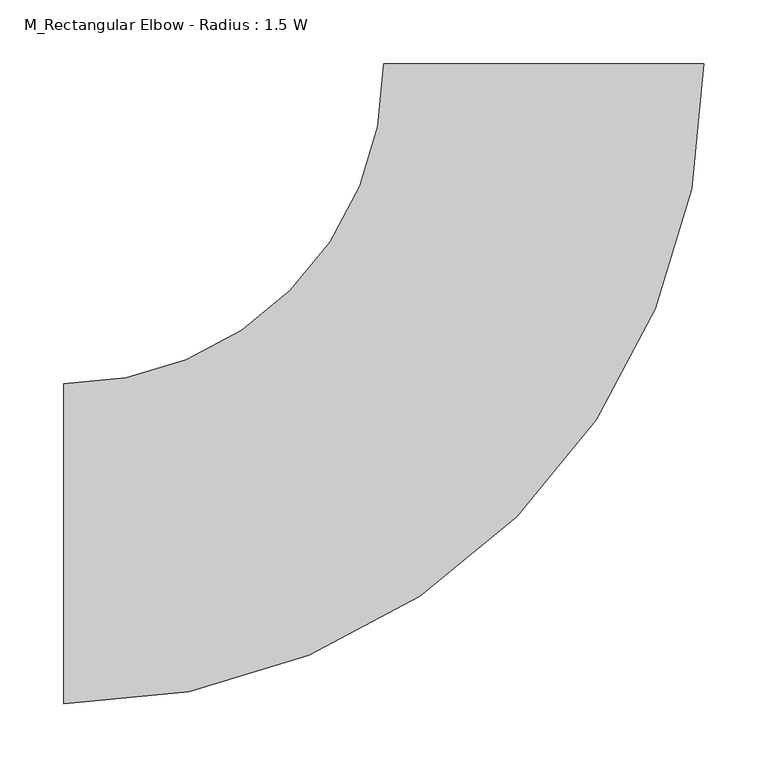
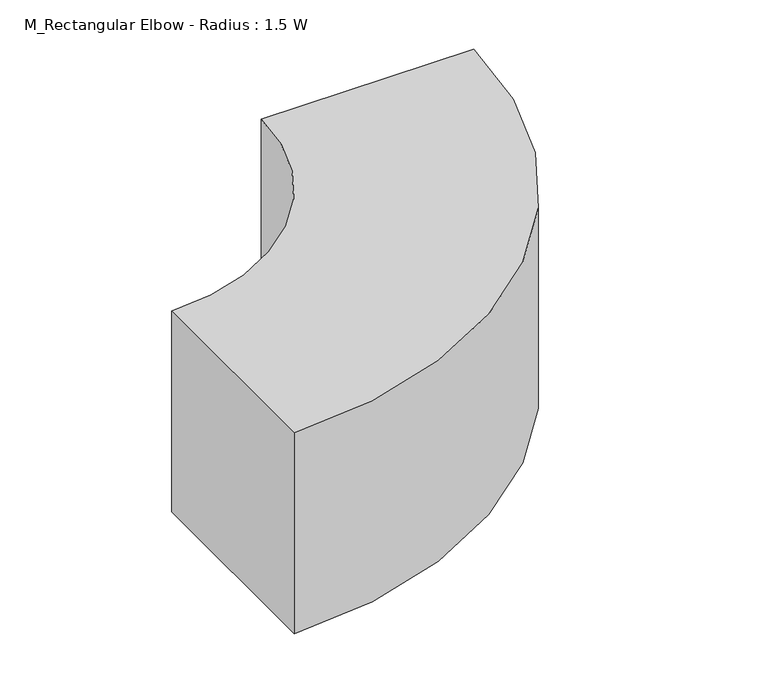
"""IFC4 building model written with IfcOpenShell, lengths in millimetres: duct fitting geometry, M_Rectangular Elbow - Radius : 1.5 W."""

from ifc_helpers import new_model, si_unit, point, frame, frame_2d, origin, place, context, project, spatial, polyline, circle_curve, trimmed, segment, composite_curve, outline, extrude, source, transform, mapped, element, save


def m_rectangular_elbow_radius_1_5_w_232b0c8c(model_context):
    return source(origin(), model_context, "Body", "SweptSolid", [
        extrude(outline(composite_curve([segment(trimmed(circle_curve(frame_2d((-375.0, 375.0)), 500.0), [point((125.0, 375.0))], [point((-375.0, -125.0))], False, "CARTESIAN"), True, "CONTINUOUS"), segment(polyline([(-375.0, -125.0), (-375.0, 125.0)]), True, "CONTINUOUS"), segment(trimmed(circle_curve(frame_2d((-375.0, 375.0)), 250.0), [point((-375.0, 125.0))], [point((-125.0, 375.0))], True, "CARTESIAN"), True, "CONTINUOUS"), segment(polyline([(-125.0, 375.0), (125.0, 375.0)]), True, "CONTINUOUS")], self_intersect=False)), frame((0.0, 0.0, -125.0), z_axis=(0.0, 0.0, 1.0), x_axis=(1.0, 0.0, 0.0)), (0.0, 0.0, 1.0), 250.0),
        extrude(outline(composite_curve([segment(trimmed(circle_curve(frame_2d((-375.0, 375.0)), 500.0), [point((125.0, 375.0))], [point((-375.0, -125.0))], False, "CARTESIAN"), True, "CONTINUOUS"), segment(polyline([(-375.0, -125.0), (-375.0, 125.0)]), True, "CONTINUOUS"), segment(trimmed(circle_curve(frame_2d((-375.0, 375.0)), 250.0), [point((-375.0, 125.0))], [point((-125.0, 375.0))], True, "CARTESIAN"), True, "CONTINUOUS"), segment(polyline([(-125.0, 375.0), (125.0, 375.0)]), True, "CONTINUOUS")], self_intersect=False)), frame((0.0, 0.0, -125.0), z_axis=(0.0, 0.0, 1.0), x_axis=(1.0, 0.0, 0.0)), (0.0, 0.0, 1.0), 250.0),
        extrude(outline(composite_curve([segment(trimmed(circle_curve(frame_2d((-375.0, 375.0)), 500.0), [point((125.0, 375.0))], [point((-375.0, -125.0))], False, "CARTESIAN"), True, "CONTINUOUS"), segment(polyline([(-375.0, -125.0), (-375.0, 125.0)]), True, "CONTINUOUS"), segment(trimmed(circle_curve(frame_2d((-375.0, 375.0)), 250.0), [point((-375.0, 125.0))], [point((-125.0, 375.0))], True, "CARTESIAN"), True, "CONTINUOUS"), segment(polyline([(-125.0, 375.0), (125.0, 375.0)]), True, "CONTINUOUS")], self_intersect=False)), frame((0.0, 0.0, -125.0), z_axis=(0.0, 0.0, 1.0), x_axis=(1.0, 0.0, 0.0)), (0.0, 0.0, 1.0), 250.0),
    ])


if __name__ == "__main__":
    model = new_model("IFC4")
    model_context = context("Model", 3, world=origin())
    ifc_project = project(units=[si_unit("LENGTHUNIT", "METRE", prefix="MILLI")], contexts=[model_context])
    site = spatial("IfcSite", under=ifc_project)
    building = spatial("IfcBuilding", under=site)
    placement = place(None, origin())
    m_rectangular_elbow_radius_1_5_w_shape = m_rectangular_elbow_radius_1_5_w_232b0c8c(model_context)
    element("IfcDuctFitting", 1, ObjectType="M_Rectangular Elbow - Radius : 1.5 W", at=placement, inside=building, context=model_context, shape_type="MappedRepresentation", body=[
        mapped(m_rectangular_elbow_radius_1_5_w_shape, transform((0.0, 0.0, 0.0), x_axis=(1.0, 0.0, 0.0), y_axis=(0.0, 1.0, 0.0), z_axis=(0.0, 0.0, 1.0))),
    ])
    save(model, "model.ifc")
